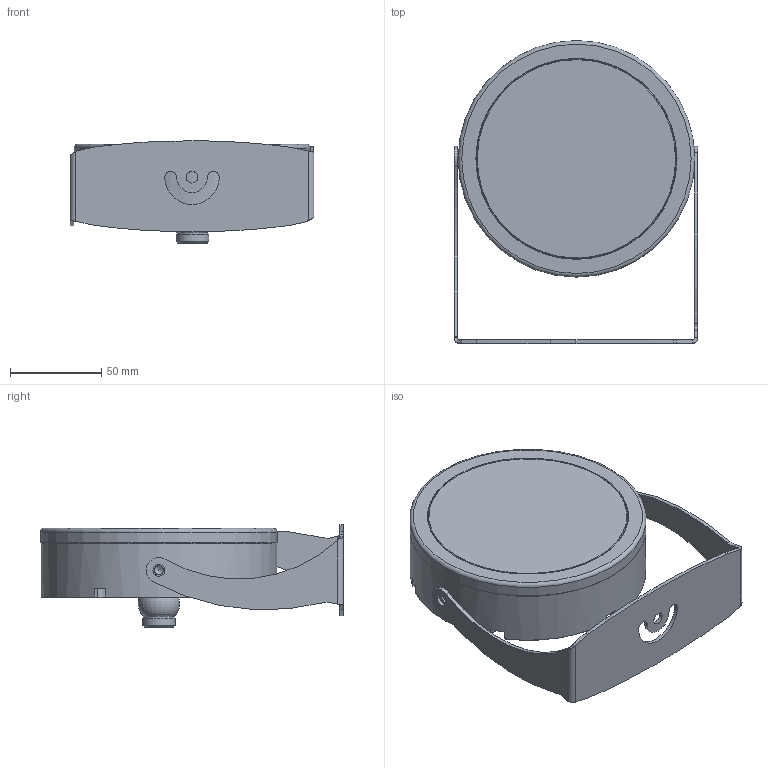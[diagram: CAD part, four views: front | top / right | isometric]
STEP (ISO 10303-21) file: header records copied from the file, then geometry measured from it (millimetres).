
FILE_DESCRIPTION(/* description */ ('Alibre Inc.'),/* implementation_level */ '2;1');
FILE_NAME(/* name */ 'export-F5901907-D436-4DE9-845C-F995C47AC41E',/* time_stamp */ '2025-04-08T18:42:11+02:00',/* author */ (''),/* organization */ (''),/* preprocessor_version */ 'ST-DEVELOPER v17',/* originating_system */ 'Alibre',/* authorisation */ '');
FILE_SCHEMA (('CONFIG_CONTROL_DESIGN'));
Length unit declared in the file: millimetre
Products named in the file (9): ID_1
Bounding box: 134 x 166.39 x 56.33 mm (x, y, z)
Volume: 388891.8 mm3; surface area: 124601.5 mm2
Topology: 7 solids, 7 shells, 342 faces, 848 edges, 557 vertices
Faces by surface type: plane 176, cylinder 104, cone 37, bspline 17, extrusion 6, torus 2
Full cylindrical faces by diameter (mm): 1.081 x1, 1.436 x1, 2.185 x1, 2.5 x9, 4 x6, 4.2 x6, 4.917 x2, 6.5 x3, 8.5 x1, 8.759 x1, 10.959 x1, 11.046 x1, 12 x1, 12.059 x2, 12.796 x1, 14 x1, 16.459 x1, 17 x1, 18 x1, 18.059 x1, 20 x1, 30 x3, 108 x1, 110 x2, 110.5 x2, 112 x1, 117 x2, 129.5 x1, 130 x1
Entity records: 10893 total; most frequent: CARTESIAN_POINT 2500, ORIENTED_EDGE 1442, DIRECTION 1403, EDGE_CURVE 721, AXIS2_PLACEMENT_3D 577, VERTEX_POINT 529, FACE_BOUND 508, EDGE_LOOP 497
